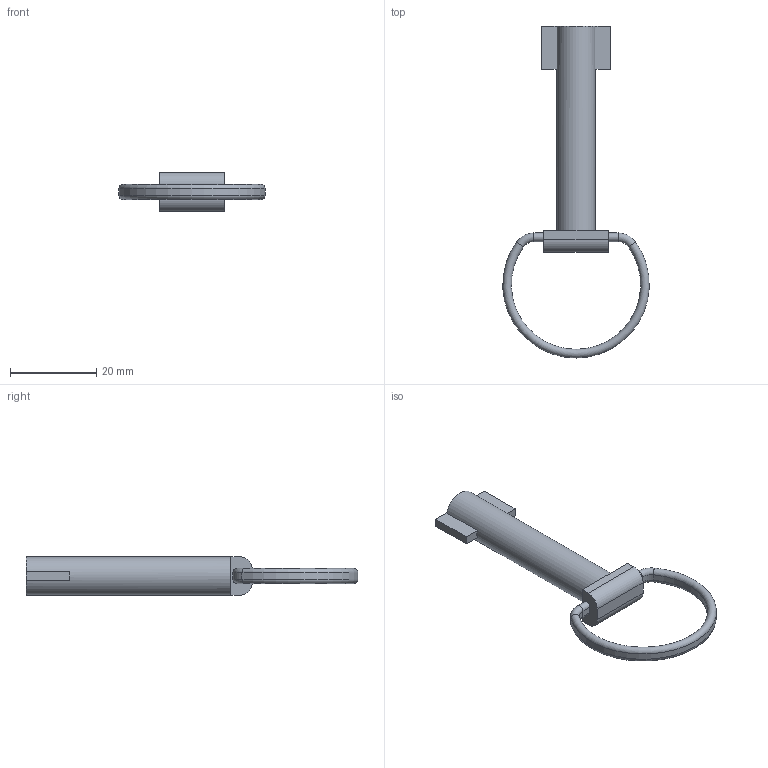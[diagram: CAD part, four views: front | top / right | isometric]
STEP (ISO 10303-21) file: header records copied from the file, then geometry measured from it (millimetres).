
FILE_DESCRIPTION (( 'STEP AP214' ), '1' );
FILE_NAME ('F30150.step', '2024-12-03T16:16:17', ( '' ), ( '' ), 'SwSTEP 2.0', 'SolidWorks 2023', '' );
FILE_SCHEMA (( 'AUTOMOTIVE_DESIGN' ));
Length unit declared in the file: millimetre
Products named in the file (1): F30150
Bounding box: 33.95 x 77 x 9 mm (x, y, z)
Volume: 4128.6 mm3; surface area: 3044.8 mm2
Topology: 1 solids, 1 shells, 43 faces, 98 edges, 59 vertices
Faces by surface type: plane 22, cylinder 15, torus 6
Full cylindrical faces by diameter (mm): 4 x1, 6 x1, 9 x1
Entity records: 1201 total; most frequent: DIRECTION 220, CARTESIAN_POINT 196, ORIENTED_EDGE 188, EDGE_CURVE 94, AXIS2_PLACEMENT_3D 82, VERTEX_POINT 58, VECTOR 56, LINE 56
